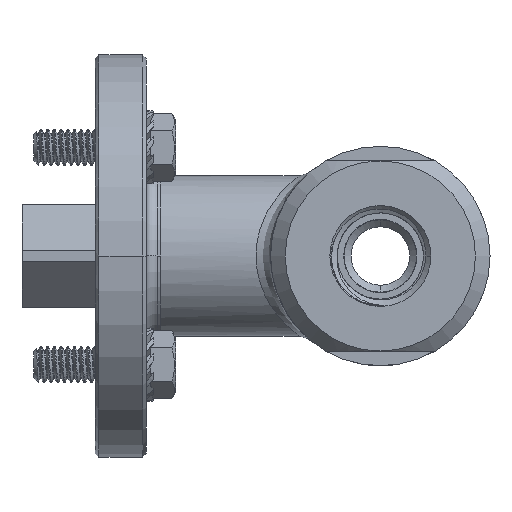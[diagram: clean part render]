
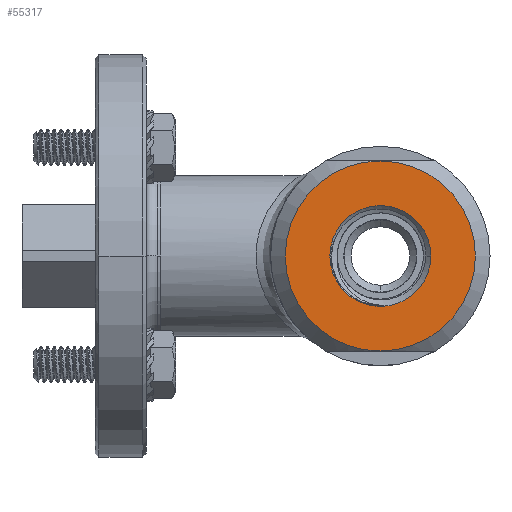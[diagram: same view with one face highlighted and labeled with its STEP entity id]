
A CAD part, left-side view. The second image highlights one B-rep face of the part: STEP entity #55317.
In plain terms, the highlighted planar face has unit normal (-1, 0, 0).
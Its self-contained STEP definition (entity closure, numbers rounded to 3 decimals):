
#6431=CARTESIAN_POINT('',(-26.,0.,0.));
#6432=DIRECTION('',(1.,0.,0.));
#6433=DIRECTION('',(0.,-1.,0.));
#6434=AXIS2_PLACEMENT_3D('',#6431,#6432,#6433);
#6506=CARTESIAN_POINT('',(-26.,0.,0.));
#6507=DIRECTION('',(1.,0.,0.));
#6508=DIRECTION('',(0.,1.,0.));
#6509=AXIS2_PLACEMENT_3D('',#6506,#6507,#6508);
#6521=CARTESIAN_POINT('',(-26.,0.,0.));
#6522=DIRECTION('',(-1.,0.,0.));
#6523=DIRECTION('',(0.,0.,-1.));
#6524=AXIS2_PLACEMENT_3D('',#6521,#6522,#6523);
#6588=CARTESIAN_POINT('',(-26.,0.,0.));
#6589=DIRECTION('',(-1.,0.,0.));
#6590=DIRECTION('',(0.,0.,1.));
#6591=AXIS2_PLACEMENT_3D('',#6588,#6589,#6590);
#46846=CARTESIAN_POINT('',(-26.,0.,13.));
#46847=CARTESIAN_POINT('',(-26.,0.,-13.));
#46848=VERTEX_POINT('',#46846);
#46849=VERTEX_POINT('',#46847);
#46866=CARTESIAN_POINT('',(-26.,-6.9,0.));
#46867=CARTESIAN_POINT('',(-26.,6.9,0.));
#46868=VERTEX_POINT('',#46866);
#46869=VERTEX_POINT('',#46867);
#55302=CARTESIAN_POINT('',(-26.,0.,0.));
#55303=DIRECTION('',(-1.,0.,0.));
#55304=DIRECTION('',(0.,0.,-1.));
#55305=AXIS2_PLACEMENT_3D('',#55302,#55303,#55304);
#55306=PLANE('',#55305);
#55308=ORIENTED_EDGE('',*,*,#55307,.F.);
#55310=ORIENTED_EDGE('',*,*,#55309,.F.);
#55311=EDGE_LOOP('',(#55308,#55310));
#55312=FACE_OUTER_BOUND('',#55311,.F.);
#55313=ORIENTED_EDGE('',*,*,#55296,.F.);
#55314=ORIENTED_EDGE('',*,*,#55279,.F.);
#55315=EDGE_LOOP('',(#55313,#55314));
#55316=FACE_BOUND('',#55315,.F.);
#55317=ADVANCED_FACE('',(#55312,#55316),#55306,.T.);
#6435=CIRCLE('',#6434,6.9);
#6510=CIRCLE('',#6509,6.9);
#6525=CIRCLE('',#6524,13.);
#6592=CIRCLE('',#6591,13.);
#55279=EDGE_CURVE('',#46868,#46869,#6435,.T.);
#55296=EDGE_CURVE('',#46869,#46868,#6510,.T.);
#55307=EDGE_CURVE('',#46849,#46848,#6525,.T.);
#55309=EDGE_CURVE('',#46848,#46849,#6592,.T.);
